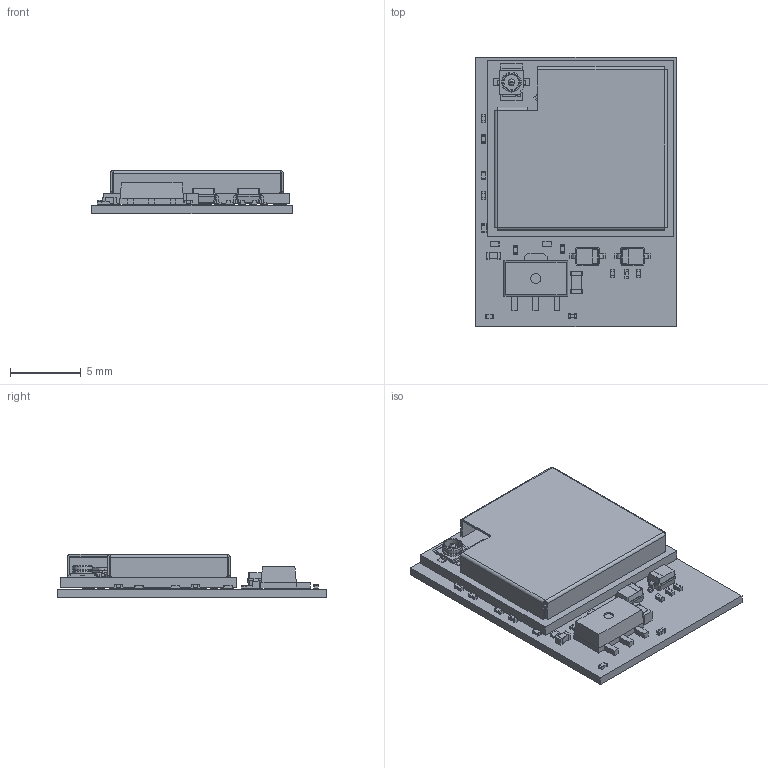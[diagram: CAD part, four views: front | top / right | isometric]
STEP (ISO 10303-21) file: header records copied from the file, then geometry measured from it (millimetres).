
FILE_DESCRIPTION(('KiCad electronic assembly'),'2;1');
FILE_NAME('db153.step','2024-06-26T21:21:05',('Pcbnew'),('Kicad'), 'Open CASCADE STEP processor 7.7','KiCad to STEP converter','Unknown' );
FILE_SCHEMA(('AUTOMOTIVE_DESIGN { 1 0 10303 214 1 1 1 1 }'));
Length unit declared in the file: millimetre
Products named in the file (18): db153 1; R_0201_0603Metric; D_SOD-323; D_SOD_323; C_0201_0603Metric; C_0603_1608Metric; ESP32-C3-MINI-1U; ESP32-C3-MINI-1U_20210906; C_0402_1005Metric; LED_0201_0603Metric; SOT-89-3; CQ assembly; dronebeacon_PCB
Assembly tree (29 placements, depth 3):
  db153 1
    R_0201_0603Metric  x6
      R_0201_0603Metric
    D_SOD-323  x2
      D_SOD_323
    C_0201_0603Metric  x6
      C_0201_0603Metric
    C_0603_1608Metric
      C_0603_1608Metric
    ESP32-C3-MINI-1U
      ESP32-C3-MINI-1U_20210906
    C_0402_1005Metric
      C_0402_1005Metric
    LED_0201_0603Metric  x2
      LED_0201_0603Metric
    SOT-89-3
      CQ assembly
    dronebeacon_PCB
Bounding box: 14.2 x 19.05 x 3.05 mm (x, y, z)
Volume: 365.1 mm3; surface area: 1759.1 mm2
Topology: 204 solids, 205 shells, 2937 faces, 6976 edges, 4416 vertices
Faces by surface type: plane 1998, cylinder 706, sphere 112, bspline 106, cone 9, torus 4, revolution 2
Full cylindrical faces by diameter (mm): 0.7 x1
Entity records: 78570 total; most frequent: CARTESIAN_POINT 16535, DIRECTION 12050, ORIENTED_EDGE 11910, EDGE_CURVE 5955, LINE 4594, VECTOR 4594, VERTEX_POINT 3830, AXIS2_PLACEMENT_3D 3727
